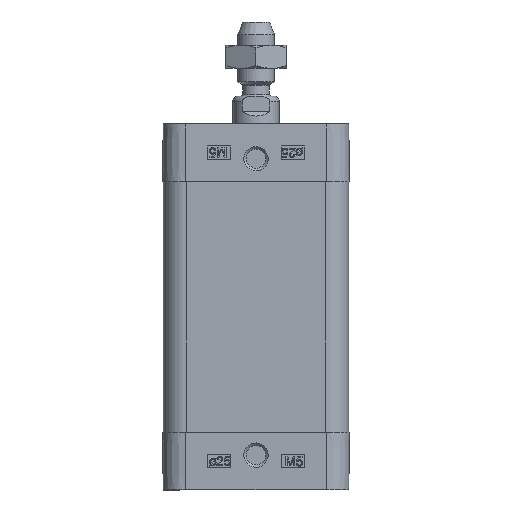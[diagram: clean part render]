
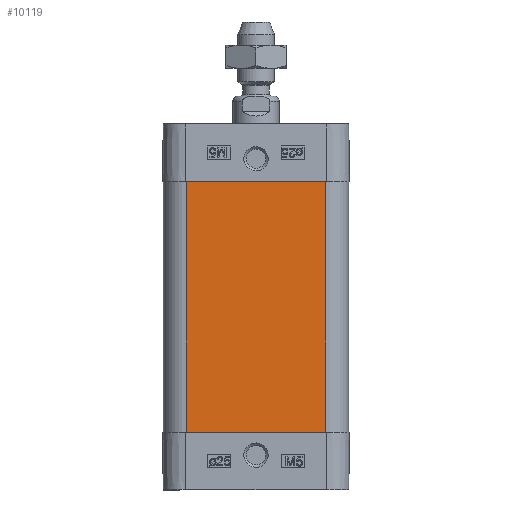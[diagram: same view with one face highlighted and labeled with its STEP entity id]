
A CAD part, left-side view. The second image highlights one B-rep face of the part: STEP entity #10119.
In plain terms, the highlighted planar face has unit normal (-1, 0, 0).
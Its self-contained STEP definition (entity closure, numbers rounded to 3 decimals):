
#933=LINE('',#18153,#1819);
#961=LINE('',#18266,#1847);
#1043=LINE('',#18486,#1929);
#1044=LINE('',#18488,#1930);
#1819=VECTOR('',#15385,1000.);
#1847=VECTOR('',#15471,1000.);
#1929=VECTOR('',#15717,1000.);
#1930=VECTOR('',#15720,1000.);
#3068=ORIENTED_EDGE('',*,*,#5704,.T.);
#3069=ORIENTED_EDGE('',*,*,#5870,.T.);
#3070=ORIENTED_EDGE('',*,*,#5871,.T.);
#3071=ORIENTED_EDGE('',*,*,#5760,.F.);
#5704=EDGE_CURVE('',#7165,#7166,#933,.T.);
#5760=EDGE_CURVE('',#7165,#7221,#961,.T.);
#5870=EDGE_CURVE('',#7166,#7276,#1043,.T.);
#5871=EDGE_CURVE('',#7276,#7221,#1044,.T.);
#7165=VERTEX_POINT('',#18154);
#7166=VERTEX_POINT('',#18155);
#7221=VERTEX_POINT('',#18267);
#7276=VERTEX_POINT('',#18485);
#8270=EDGE_LOOP('',(#3068,#3069,#3070,#3071));
#9044=FACE_BOUND('',#8270,.T.);
#9769=PLANE('',#14535);
#10119=ADVANCED_FACE('',(#9044),#9769,.T.);
#14535=AXIS2_PLACEMENT_3D('',#18487,#15718,#15719);
#15385=DIRECTION('',(0.,0.,-1.));
#15471=DIRECTION('',(0.,-1.,0.));
#15717=DIRECTION('',(0.,-1.,0.));
#15718=DIRECTION('',(-1.,0.,0.));
#15719=DIRECTION('',(0.,0.,1.));
#15720=DIRECTION('',(0.,0.,1.));
#18153=CARTESIAN_POINT('',(-20.,44.5,15.));
#18154=CARTESIAN_POINT('',(-20.,44.5,15.));
#18155=CARTESIAN_POINT('',(-20.,44.5,-15.));
#18266=CARTESIAN_POINT('',(-20.,0.,15.));
#18267=CARTESIAN_POINT('',(-20.,-9.5,15.));
#18485=CARTESIAN_POINT('',(-20.,-9.5,-15.));
#18486=CARTESIAN_POINT('',(-20.,0.,-15.));
#18487=CARTESIAN_POINT('',(-20.,0.,15.));
#18488=CARTESIAN_POINT('',(-20.,-9.5,15.));
